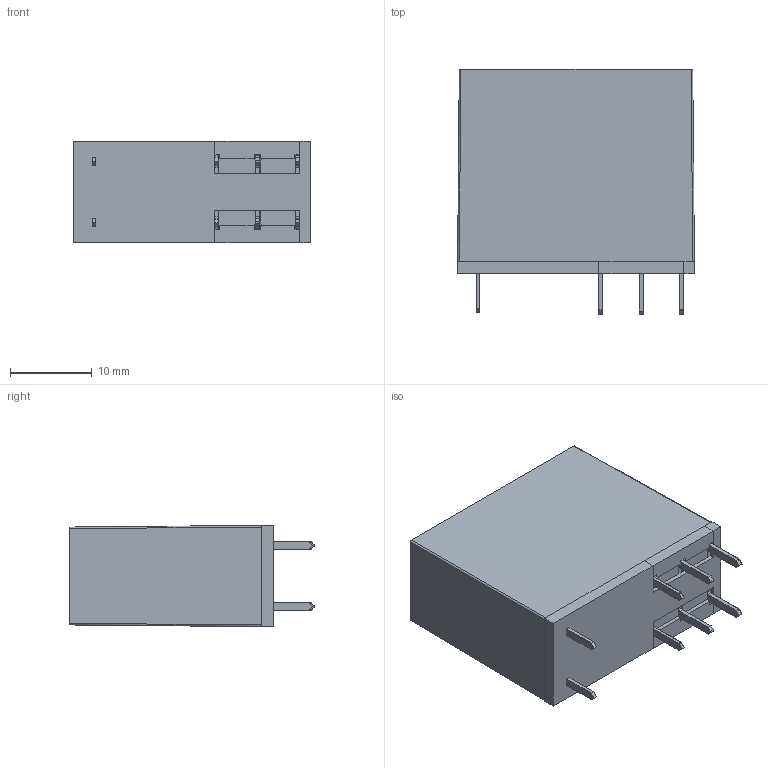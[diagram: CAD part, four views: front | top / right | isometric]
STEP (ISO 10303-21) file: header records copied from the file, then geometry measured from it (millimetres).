
FILE_DESCRIPTION(('STEP AP214'),'2;1');
FILE_NAME('5012.stp','2011-08-03T13:54:05',(''),(''),'2007.1.106','THINKDESIGN','');
FILE_SCHEMA(('AUTOMOTIVE_DESIGN'));
Length unit declared in the file: millimetre
Products named in the file (1): None
Bounding box: 29 x 30 x 12.4 mm (x, y, z)
Surface area: 2938.1 mm2 (no closed solid volume)
Topology: 0 solids, 0 shells, 114 faces, 610 edges, 608 vertices
Faces by surface type: plane 71, bspline 25, cylinder 18
Entity records: 6275 total; most frequent: CARTESIAN_POINT 1807, DIRECTION 740, COMPOSITE_CURVE_SEGMENT 610, TRIMMED_CURVE 534, VECTOR 506, LINE 506, AXIS2_PLACEMENT_3D 117, OUTER_BOUNDARY_CURVE 114
